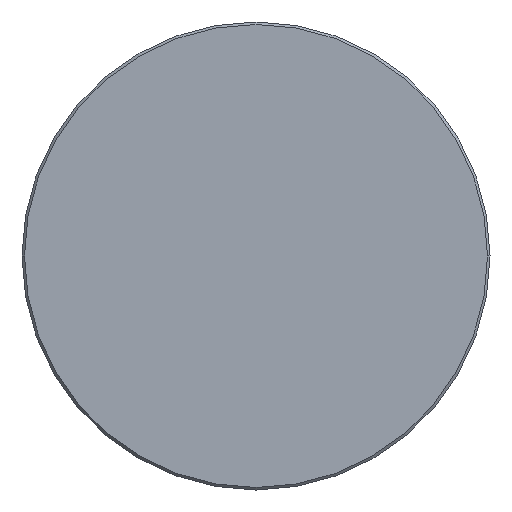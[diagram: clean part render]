
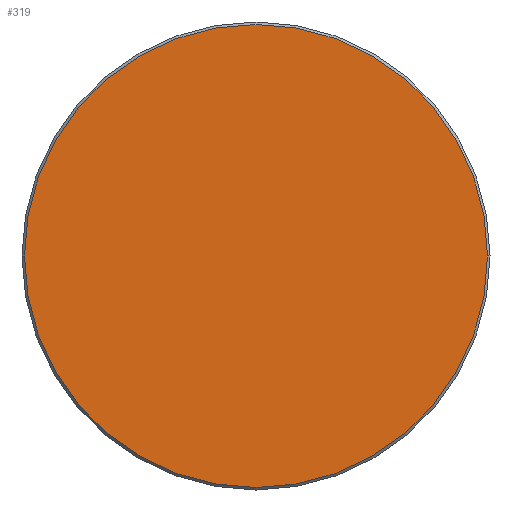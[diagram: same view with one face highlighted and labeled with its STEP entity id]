
A CAD part, left-side view. The second image highlights one B-rep face of the part: STEP entity #319.
In plain terms, the highlighted planar face has unit normal (-1, 0, 0).
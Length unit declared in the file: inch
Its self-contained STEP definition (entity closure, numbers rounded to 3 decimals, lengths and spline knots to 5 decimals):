
#4 = AXIS2_PLACEMENT_3D ( 'NONE', #172, #51, #20 ) ;
#12 = DIRECTION ( 'NONE',  ( 0., -1., 0. ) ) ;
#20 = DIRECTION ( 'NONE',  ( 0., -1., 0. ) ) ;
#26 = CARTESIAN_POINT ( 'NONE',  ( 0., 0., 0. ) ) ;
#34 = CIRCLE ( 'NONE', #4, 0.371 ) ;
#36 = ORIENTED_EDGE ( 'NONE', *, *, #61, .T. ) ;
#51 = DIRECTION ( 'NONE',  ( -1., 0., 0. ) ) ;
#55 = PLANE ( 'NONE',  #180 ) ;
#61 = EDGE_CURVE ( 'NONE', #308, #75, #204, .T. ) ;
#75 = VERTEX_POINT ( 'NONE', #134 ) ;
#91 = AXIS2_PLACEMENT_3D ( 'NONE', #334, #267, #12 ) ;
#134 = CARTESIAN_POINT ( 'NONE',  ( 0., -0.371, 0. ) ) ;
#172 = CARTESIAN_POINT ( 'NONE',  ( 0., 0., 0. ) ) ;
#180 = AXIS2_PLACEMENT_3D ( 'NONE', #26, #324, #372 ) ;
#204 = CIRCLE ( 'NONE', #91, 0.371 ) ;
#246 = FACE_OUTER_BOUND ( 'NONE', #323, .T. ) ;
#267 = DIRECTION ( 'NONE',  ( -1., 0., 0. ) ) ;
#286 = CARTESIAN_POINT ( 'NONE',  ( 0., 0.371, 0. ) ) ;
#289 = EDGE_CURVE ( 'NONE', #75, #308, #34, .T. ) ;
#290 = ORIENTED_EDGE ( 'NONE', *, *, #289, .T. ) ;
#308 = VERTEX_POINT ( 'NONE', #286 ) ;
#319 = ADVANCED_FACE ( 'NONE', ( #246 ), #55, .T. ) ;
#323 = EDGE_LOOP ( 'NONE', ( #36, #290 ) ) ;
#324 = DIRECTION ( 'NONE',  ( -1., 0., 0. ) ) ;
#334 = CARTESIAN_POINT ( 'NONE',  ( 0., 0., 0. ) ) ;
#372 = DIRECTION ( 'NONE',  ( 0., -1., 0. ) ) ;
